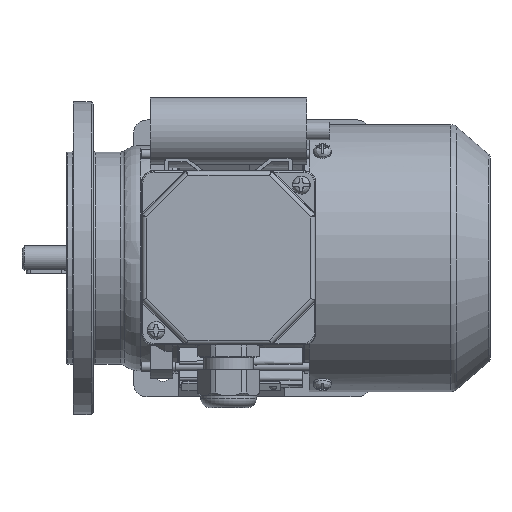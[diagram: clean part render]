
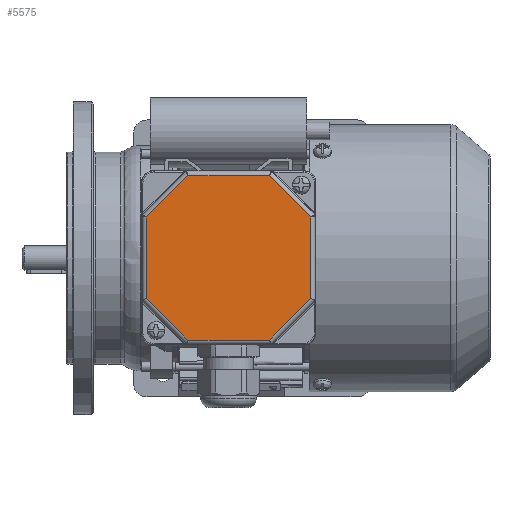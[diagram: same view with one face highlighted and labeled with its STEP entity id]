
A CAD part, top view. The second image highlights one B-rep face of the part: STEP entity #5575.
In plain terms, the highlighted planar face has unit normal (0, 0, 1).
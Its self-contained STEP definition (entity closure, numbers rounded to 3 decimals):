
#5575 = ADVANCED_FACE( '', ( #10977 ), #10978, .T. );
#10977 = FACE_OUTER_BOUND( '', #25094, .T. );
#10978 = PLANE( '', #25095 );
#25094 = EDGE_LOOP( '', ( #40494, #40495, #40496, #40497, #40498, #40499, #40500, #40501 ) );
#25095 = AXIS2_PLACEMENT_3D( '', #40502, #40503, #40504 );
#40494 = ORIENTED_EDGE( '', *, *, #46724, .T. );
#40495 = ORIENTED_EDGE( '', *, *, #41557, .T. );
#40496 = ORIENTED_EDGE( '', *, *, #45264, .T. );
#40497 = ORIENTED_EDGE( '', *, *, #43608, .T. );
#40498 = ORIENTED_EDGE( '', *, *, #46105, .T. );
#40499 = ORIENTED_EDGE( '', *, *, #46341, .T. );
#40500 = ORIENTED_EDGE( '', *, *, #44002, .T. );
#40501 = ORIENTED_EDGE( '', *, *, #46530, .T. );
#40502 = CARTESIAN_POINT( '', ( -39., 39., 12. ) );
#40503 = DIRECTION( '', ( 0., 0., 1. ) );
#40504 = DIRECTION( '', ( 1., 0., 0. ) );
#41557 = EDGE_CURVE( '', #49720, #49721, #49722, .T. );
#43608 = EDGE_CURVE( '', #51761, #53200, #53201, .T. );
#44002 = EDGE_CURVE( '', #51136, #52744, #53811, .F. );
#45264 = EDGE_CURVE( '', #49721, #51761, #55678, .F. );
#46105 = EDGE_CURVE( '', #53200, #56749, #56750, .F. );
#46341 = EDGE_CURVE( '', #56749, #51136, #57040, .T. );
#46530 = EDGE_CURVE( '', #52744, #52989, #57262, .T. );
#46724 = EDGE_CURVE( '', #52989, #49720, #57482, .F. );
#49720 = VERTEX_POINT( '', #59341 );
#49721 = VERTEX_POINT( '', #59342 );
#49722 = LINE( '', #59343, #59344 );
#51136 = VERTEX_POINT( '', #62080 );
#51761 = VERTEX_POINT( '', #63116 );
#52744 = VERTEX_POINT( '', #65189 );
#52989 = VERTEX_POINT( '', #65716 );
#53200 = VERTEX_POINT( '', #66441 );
#53201 = LINE( '', #66442, #66443 );
#53811 = LINE( '', #67759, #67760 );
#55678 = LINE( '', #71850, #71851 );
#56749 = VERTEX_POINT( '', #74183 );
#56750 = LINE( '', #74184, #74185 );
#57040 = LINE( '', #74756, #74757 );
#57262 = LINE( '', #75288, #75289 );
#57482 = LINE( '', #75758, #75759 );
#59341 = CARTESIAN_POINT( '', ( 36.825, 18.255, 12. ) );
#59342 = CARTESIAN_POINT( '', ( 18.255, 36.825, 12. ) );
#59343 = CARTESIAN_POINT( '', ( 17.679, 37.401, 12. ) );
#59344 = VECTOR( '', #78106, 1000. );
#62080 = CARTESIAN_POINT( '', ( -18.255, -36.825, 12. ) );
#63116 = CARTESIAN_POINT( '', ( -18.255, 36.825, 12. ) );
#65189 = CARTESIAN_POINT( '', ( 18.255, -36.825, 12. ) );
#65716 = CARTESIAN_POINT( '', ( 36.825, -18.255, 12. ) );
#66441 = CARTESIAN_POINT( '', ( -36.825, 18.255, 12. ) );
#66442 = CARTESIAN_POINT( '', ( -37.401, 17.679, 12. ) );
#66443 = VECTOR( '', #80683, 1000. );
#67759 = CARTESIAN_POINT( '', ( 19.069, -36.825, 12. ) );
#67760 = VECTOR( '', #81093, 1000. );
#71850 = CARTESIAN_POINT( '', ( -19.069, 36.825, 12. ) );
#71851 = VECTOR( '', #82647, 1000. );
#74183 = CARTESIAN_POINT( '', ( -36.825, -18.255, 12. ) );
#74184 = CARTESIAN_POINT( '', ( -36.825, -19.069, 12. ) );
#74185 = VECTOR( '', #83430, 1000. );
#74756 = CARTESIAN_POINT( '', ( -17.679, -37.401, 12. ) );
#74757 = VECTOR( '', #83630, 1000. );
#75288 = CARTESIAN_POINT( '', ( 37.401, -17.679, 12. ) );
#75289 = VECTOR( '', #83796, 1000. );
#75758 = CARTESIAN_POINT( '', ( 36.825, 19.069, 12. ) );
#75759 = VECTOR( '', #83941, 1000. );
#78106 = DIRECTION( '', ( -0.707, 0.707, 0. ) );
#80683 = DIRECTION( '', ( -0.707, -0.707, 0. ) );
#81093 = DIRECTION( '', ( -1., 0., 0. ) );
#82647 = DIRECTION( '', ( 1., 0., 0. ) );
#83430 = DIRECTION( '', ( 0., 1., 0. ) );
#83630 = DIRECTION( '', ( 0.707, -0.707, 0. ) );
#83796 = DIRECTION( '', ( 0.707, 0.707, 0. ) );
#83941 = DIRECTION( '', ( 0., -1., 0. ) );
